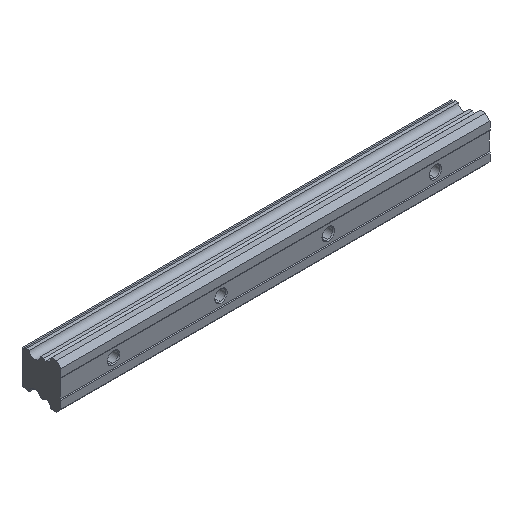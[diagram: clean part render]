
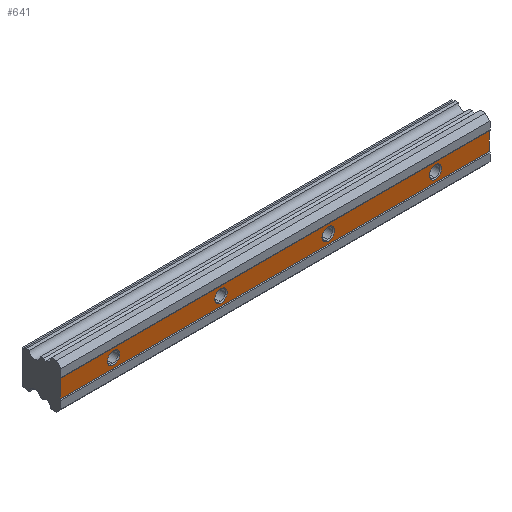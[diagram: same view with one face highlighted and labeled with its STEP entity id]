
A CAD part, isometric view. The second image highlights one B-rep face of the part: STEP entity #641.
In plain terms, the highlighted planar face has unit normal (0, -1, 0).
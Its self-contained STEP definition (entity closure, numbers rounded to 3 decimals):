
#22 = AXIS2_PLACEMENT_3D ( 'NONE', #597, #165, #1178 ) ;
#27 = AXIS2_PLACEMENT_3D ( 'NONE', #535, #235, #94 ) ;
#30 = VERTEX_POINT ( 'NONE', #246 ) ;
#43 = DIRECTION ( 'NONE',  ( 0., 0., 1. ) ) ;
#47 = CARTESIAN_POINT ( 'NONE',  ( 90., 0.5, -3.5 ) ) ;
#51 = VERTEX_POINT ( 'NONE', #436 ) ;
#70 = ORIENTED_EDGE ( 'NONE', *, *, #1744, .F. ) ;
#82 = CARTESIAN_POINT ( 'NONE',  ( 240., 0.5, -5. ) ) ;
#94 = DIRECTION ( 'NONE',  ( 0., 0., 1. ) ) ;
#102 = PLANE ( 'NONE',  #508 ) ;
#118 = VECTOR ( 'NONE', #472, 1000. ) ;
#129 = EDGE_CURVE ( 'NONE', #1404, #158, #1305, .T. ) ;
#132 = EDGE_CURVE ( 'NONE', #158, #1404, #1406, .T. ) ;
#148 = ORIENTED_EDGE ( 'NONE', *, *, #132, .T. ) ;
#156 = AXIS2_PLACEMENT_3D ( 'NONE', #1768, #1732, #396 ) ;
#158 = VERTEX_POINT ( 'NONE', #1789 ) ;
#165 = DIRECTION ( 'NONE',  ( 0., 1., 0. ) ) ;
#175 = DIRECTION ( 'NONE',  ( 0., 0., 1. ) ) ;
#193 = ORIENTED_EDGE ( 'NONE', *, *, #743, .T. ) ;
#202 = ORIENTED_EDGE ( 'NONE', *, *, #412, .T. ) ;
#235 = DIRECTION ( 'NONE',  ( 0., 1., 0. ) ) ;
#246 = CARTESIAN_POINT ( 'NONE',  ( 240., 0.5, -5. ) ) ;
#265 = CARTESIAN_POINT ( 'NONE',  ( 150., 0.5, -3.5 ) ) ;
#285 = FACE_BOUND ( 'NONE', #1800, .T. ) ;
#303 = EDGE_LOOP ( 'NONE', ( #148, #1128 ) ) ;
#305 = CIRCLE ( 'NONE', #1745, 3.5 ) ;
#341 = EDGE_CURVE ( 'NONE', #669, #1315, #305, .T. ) ;
#344 = CARTESIAN_POINT ( 'NONE',  ( 150., 0.5, 0. ) ) ;
#396 = DIRECTION ( 'NONE',  ( 0., 0., 1. ) ) ;
#398 = CARTESIAN_POINT ( 'NONE',  ( 30., 0.5, 0. ) ) ;
#412 = EDGE_CURVE ( 'NONE', #1894, #1295, #1232, .T. ) ;
#424 = DIRECTION ( 'NONE',  ( 0., 1., 0. ) ) ;
#436 = CARTESIAN_POINT ( 'NONE',  ( 90., 0.5, 3.5 ) ) ;
#460 = CARTESIAN_POINT ( 'NONE',  ( 0., 0.5, -5. ) ) ;
#472 = DIRECTION ( 'NONE',  ( 0., 0., -1. ) ) ;
#495 = DIRECTION ( 'NONE',  ( 0., 1., 0. ) ) ;
#502 = DIRECTION ( 'NONE',  ( 0., 1., 0. ) ) ;
#508 = AXIS2_PLACEMENT_3D ( 'NONE', #706, #424, #1036 ) ;
#511 = ORIENTED_EDGE ( 'NONE', *, *, #1928, .F. ) ;
#535 = CARTESIAN_POINT ( 'NONE',  ( 90., 0.5, 0. ) ) ;
#547 = CARTESIAN_POINT ( 'NONE',  ( 30., 0.5, 3.5 ) ) ;
#554 = EDGE_LOOP ( 'NONE', ( #1051, #70, #511, #202 ) ) ;
#580 = ORIENTED_EDGE ( 'NONE', *, *, #1834, .T. ) ;
#597 = CARTESIAN_POINT ( 'NONE',  ( 30., 0.5, 0. ) ) ;
#600 = EDGE_CURVE ( 'NONE', #51, #1433, #1648, .T. ) ;
#617 = CARTESIAN_POINT ( 'NONE',  ( 210., 0.5, -3.5 ) ) ;
#633 = CARTESIAN_POINT ( 'NONE',  ( 150., 0.5, 3.5 ) ) ;
#641 = ADVANCED_FACE ( 'NONE', ( #1921, #1756, #868, #285, #712 ), #102, .F. ) ;
#642 = DIRECTION ( 'NONE',  ( 0., 0., 1. ) ) ;
#649 = AXIS2_PLACEMENT_3D ( 'NONE', #398, #1923, #742 ) ;
#669 = VERTEX_POINT ( 'NONE', #1308 ) ;
#687 = VECTOR ( 'NONE', #1076, 1000. ) ;
#706 = CARTESIAN_POINT ( 'NONE',  ( 240., 0.5, -5. ) ) ;
#712 = FACE_BOUND ( 'NONE', #1762, .T. ) ;
#720 = EDGE_CURVE ( 'NONE', #1295, #1235, #909, .T. ) ;
#721 = AXIS2_PLACEMENT_3D ( 'NONE', #941, #1095, #642 ) ;
#742 = DIRECTION ( 'NONE',  ( 0., 0., 1. ) ) ;
#743 = EDGE_CURVE ( 'NONE', #1857, #1531, #1124, .T. ) ;
#755 = VECTOR ( 'NONE', #950, 1000. ) ;
#866 = LINE ( 'NONE', #82, #1752 ) ;
#868 = FACE_OUTER_BOUND ( 'NONE', #554, .T. ) ;
#909 = LINE ( 'NONE', #460, #118 ) ;
#928 = CARTESIAN_POINT ( 'NONE',  ( 240., 0.5, 5. ) ) ;
#941 = CARTESIAN_POINT ( 'NONE',  ( 90., 0.5, 0. ) ) ;
#942 = CARTESIAN_POINT ( 'NONE',  ( 210., 0.5, 0. ) ) ;
#950 = DIRECTION ( 'NONE',  ( -1., 0., 0. ) ) ;
#981 = CARTESIAN_POINT ( 'NONE',  ( 240., 0.5, -5. ) ) ;
#1021 = DIRECTION ( 'NONE',  ( 0., 0., -1. ) ) ;
#1036 = DIRECTION ( 'NONE',  ( 0., 0., 1. ) ) ;
#1051 = ORIENTED_EDGE ( 'NONE', *, *, #720, .T. ) ;
#1076 = DIRECTION ( 'NONE',  ( -1., 0., 0. ) ) ;
#1095 = DIRECTION ( 'NONE',  ( 0., 1., 0. ) ) ;
#1109 = ORIENTED_EDGE ( 'NONE', *, *, #341, .T. ) ;
#1124 = CIRCLE ( 'NONE', #1558, 3.5 ) ;
#1128 = ORIENTED_EDGE ( 'NONE', *, *, #129, .T. ) ;
#1178 = DIRECTION ( 'NONE',  ( 0., 0., 1. ) ) ;
#1225 = ORIENTED_EDGE ( 'NONE', *, *, #1473, .T. ) ;
#1231 = LINE ( 'NONE', #981, #755 ) ;
#1232 = LINE ( 'NONE', #928, #687 ) ;
#1235 = VERTEX_POINT ( 'NONE', #1498 ) ;
#1290 = CIRCLE ( 'NONE', #1533, 3.5 ) ;
#1295 = VERTEX_POINT ( 'NONE', #1507 ) ;
#1305 = CIRCLE ( 'NONE', #649, 3.5 ) ;
#1308 = CARTESIAN_POINT ( 'NONE',  ( 210., 0.5, 3.5 ) ) ;
#1315 = VERTEX_POINT ( 'NONE', #617 ) ;
#1404 = VERTEX_POINT ( 'NONE', #547 ) ;
#1406 = CIRCLE ( 'NONE', #22, 3.5 ) ;
#1433 = VERTEX_POINT ( 'NONE', #47 ) ;
#1473 = EDGE_CURVE ( 'NONE', #1315, #669, #1877, .T. ) ;
#1498 = CARTESIAN_POINT ( 'NONE',  ( 0., 0.5, -5. ) ) ;
#1506 = ORIENTED_EDGE ( 'NONE', *, *, #600, .T. ) ;
#1507 = CARTESIAN_POINT ( 'NONE',  ( 0., 0.5, 5. ) ) ;
#1515 = ORIENTED_EDGE ( 'NONE', *, *, #1870, .T. ) ;
#1531 = VERTEX_POINT ( 'NONE', #265 ) ;
#1533 = AXIS2_PLACEMENT_3D ( 'NONE', #344, #495, #1828 ) ;
#1558 = AXIS2_PLACEMENT_3D ( 'NONE', #1795, #502, #43 ) ;
#1648 = CIRCLE ( 'NONE', #27, 3.5 ) ;
#1676 = DIRECTION ( 'NONE',  ( 0., 1., 0. ) ) ;
#1708 = CARTESIAN_POINT ( 'NONE',  ( 240., 0.5, 5. ) ) ;
#1732 = DIRECTION ( 'NONE',  ( 0., 1., 0. ) ) ;
#1744 = EDGE_CURVE ( 'NONE', #30, #1235, #1231, .T. ) ;
#1745 = AXIS2_PLACEMENT_3D ( 'NONE', #942, #1676, #175 ) ;
#1752 = VECTOR ( 'NONE', #1021, 1000. ) ;
#1756 = FACE_BOUND ( 'NONE', #303, .T. ) ;
#1762 = EDGE_LOOP ( 'NONE', ( #1225, #1109 ) ) ;
#1768 = CARTESIAN_POINT ( 'NONE',  ( 210., 0.5, 0. ) ) ;
#1789 = CARTESIAN_POINT ( 'NONE',  ( 30., 0.5, -3.5 ) ) ;
#1795 = CARTESIAN_POINT ( 'NONE',  ( 150., 0.5, 0. ) ) ;
#1800 = EDGE_LOOP ( 'NONE', ( #580, #193 ) ) ;
#1815 = CIRCLE ( 'NONE', #721, 3.5 ) ;
#1828 = DIRECTION ( 'NONE',  ( 0., 0., 1. ) ) ;
#1834 = EDGE_CURVE ( 'NONE', #1531, #1857, #1290, .T. ) ;
#1857 = VERTEX_POINT ( 'NONE', #633 ) ;
#1870 = EDGE_CURVE ( 'NONE', #1433, #51, #1815, .T. ) ;
#1874 = EDGE_LOOP ( 'NONE', ( #1515, #1506 ) ) ;
#1877 = CIRCLE ( 'NONE', #156, 3.5 ) ;
#1894 = VERTEX_POINT ( 'NONE', #1708 ) ;
#1921 = FACE_BOUND ( 'NONE', #1874, .T. ) ;
#1923 = DIRECTION ( 'NONE',  ( 0., 1., 0. ) ) ;
#1928 = EDGE_CURVE ( 'NONE', #1894, #30, #866, .T. ) ;
